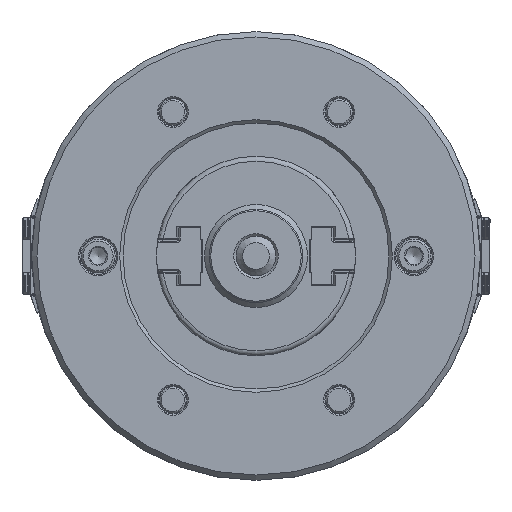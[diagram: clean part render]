
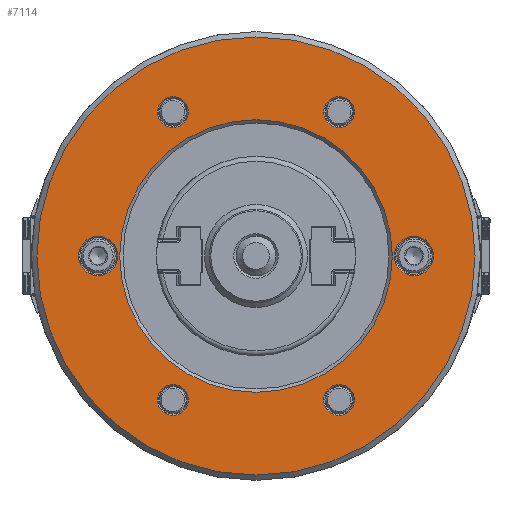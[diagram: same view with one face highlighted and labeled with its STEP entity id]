
A CAD part, left-side view. The second image highlights one B-rep face of the part: STEP entity #7114.
In plain terms, the highlighted planar face has unit normal (-1, 0, 0).
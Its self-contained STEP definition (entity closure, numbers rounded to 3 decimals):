
#624 = DIRECTION ( 'NONE',  ( -1., 0., 0. ) ) ;
#680 = FACE_BOUND ( 'NONE', #55766, .T. ) ;
#1125 = CIRCLE ( 'NONE', #48999, 4.65 ) ;
#1287 = DIRECTION ( 'NONE',  ( 1., 0., 0. ) ) ;
#1440 = ORIENTED_EDGE ( 'NONE', *, *, #67384, .F. ) ;
#1580 = VERTEX_POINT ( 'NONE', #39793 ) ;
#3205 = CIRCLE ( 'NONE', #45065, 65.9 ) ;
#3448 = DIRECTION ( 'NONE',  ( 0., 0., -1. ) ) ;
#5099 = CARTESIAN_POINT ( 'NONE',  ( -55., -47.5, 5.9 ) ) ;
#5580 = FACE_BOUND ( 'NONE', #37172, .T. ) ;
#5741 = CARTESIAN_POINT ( 'NONE',  ( -55., 0., -65.9 ) ) ;
#6458 = EDGE_CURVE ( 'NONE', #21564, #21564, #67861, .T. ) ;
#7114 = ADVANCED_FACE ( 'NONE', ( #680, #39273, #34728, #5580, #11911, #29114, #51967, #28761 ), #51621, .F. ) ;
#8036 = ORIENTED_EDGE ( 'NONE', *, *, #65424, .T. ) ;
#8078 = AXIS2_PLACEMENT_3D ( 'NONE', #12142, #1287, #28981 ) ;
#9436 = EDGE_CURVE ( 'NONE', #21191, #21191, #1125, .T. ) ;
#9480 = ORIENTED_EDGE ( 'NONE', *, *, #66124, .T. ) ;
#11911 = FACE_BOUND ( 'NONE', #67989, .T. ) ;
#12142 = CARTESIAN_POINT ( 'NONE',  ( -55., 0., 0. ) ) ;
#12471 = ORIENTED_EDGE ( 'NONE', *, *, #9436, .T. ) ;
#12800 = VERTEX_POINT ( 'NONE', #58472 ) ;
#13716 = DIRECTION ( 'NONE',  ( -1., 0., 0. ) ) ;
#15041 = DIRECTION ( 'NONE',  ( 0., 0., -1. ) ) ;
#15186 = CIRCLE ( 'NONE', #28317, 4.65 ) ;
#16609 = AXIS2_PLACEMENT_3D ( 'NONE', #41146, #68849, #58357 ) ;
#17573 = AXIS2_PLACEMENT_3D ( 'NONE', #51915, #624, #69118 ) ;
#18892 = AXIS2_PLACEMENT_3D ( 'NONE', #68445, #34362, #28031 ) ;
#19701 = EDGE_LOOP ( 'NONE', ( #12471 ) ) ;
#21191 = VERTEX_POINT ( 'NONE', #33151 ) ;
#21564 = VERTEX_POINT ( 'NONE', #5099 ) ;
#23268 = CARTESIAN_POINT ( 'NONE',  ( -55., -25., 43.301 ) ) ;
#23302 = VERTEX_POINT ( 'NONE', #46156 ) ;
#28031 = DIRECTION ( 'NONE',  ( 0., 0., -1. ) ) ;
#28317 = AXIS2_PLACEMENT_3D ( 'NONE', #43489, #59956, #15041 ) ;
#28761 = FACE_BOUND ( 'NONE', #61443, .T. ) ;
#28981 = DIRECTION ( 'NONE',  ( 0., 0., -1. ) ) ;
#29114 = FACE_BOUND ( 'NONE', #19701, .T. ) ;
#30182 = DIRECTION ( 'NONE',  ( 0., 0., 1. ) ) ;
#30416 = CARTESIAN_POINT ( 'NONE',  ( -55., -25., -43.301 ) ) ;
#32692 = VERTEX_POINT ( 'NONE', #43954 ) ;
#33151 = CARTESIAN_POINT ( 'NONE',  ( -55., -25., 38.651 ) ) ;
#33773 = DIRECTION ( 'NONE',  ( 1., 0., 0. ) ) ;
#34362 = DIRECTION ( 'NONE',  ( 1., 0., 0. ) ) ;
#34728 = FACE_BOUND ( 'NONE', #63116, .T. ) ;
#35542 = AXIS2_PLACEMENT_3D ( 'NONE', #58255, #13716, #30182 ) ;
#36830 = EDGE_CURVE ( 'NONE', #49204, #49204, #41172, .T. ) ;
#37172 = EDGE_LOOP ( 'NONE', ( #62289 ) ) ;
#39273 = FACE_BOUND ( 'NONE', #61481, .T. ) ;
#39793 = CARTESIAN_POINT ( 'NONE',  ( -55., 47.5, 5.9 ) ) ;
#40929 = ORIENTED_EDGE ( 'NONE', *, *, #48743, .T. ) ;
#41146 = CARTESIAN_POINT ( 'NONE',  ( -55., 25., 43.301 ) ) ;
#41172 = CIRCLE ( 'NONE', #69867, 4.65 ) ;
#42845 = CARTESIAN_POINT ( 'NONE',  ( -55., -25., -47.951 ) ) ;
#43489 = CARTESIAN_POINT ( 'NONE',  ( -55., 25., -43.301 ) ) ;
#43954 = CARTESIAN_POINT ( 'NONE',  ( -55., 25., 38.651 ) ) ;
#45065 = AXIS2_PLACEMENT_3D ( 'NONE', #72703, #45392, #68206 ) ;
#45140 = ORIENTED_EDGE ( 'NONE', *, *, #6458, .F. ) ;
#45392 = DIRECTION ( 'NONE',  ( 1., 0., 0. ) ) ;
#46156 = CARTESIAN_POINT ( 'NONE',  ( -55., 25., -47.951 ) ) ;
#48743 = EDGE_CURVE ( 'NONE', #32692, #32692, #48923, .T. ) ;
#48923 = CIRCLE ( 'NONE', #16609, 4.65 ) ;
#48999 = AXIS2_PLACEMENT_3D ( 'NONE', #23268, #33773, #62962 ) ;
#49204 = VERTEX_POINT ( 'NONE', #42845 ) ;
#51621 = PLANE ( 'NONE',  #18892 ) ;
#51915 = CARTESIAN_POINT ( 'NONE',  ( -55., 47.5, 0. ) ) ;
#51967 = FACE_OUTER_BOUND ( 'NONE', #53549, .T. ) ;
#53549 = EDGE_LOOP ( 'NONE', ( #1440 ) ) ;
#55766 = EDGE_LOOP ( 'NONE', ( #45140 ) ) ;
#58255 = CARTESIAN_POINT ( 'NONE',  ( -55., -47.5, 0. ) ) ;
#58357 = DIRECTION ( 'NONE',  ( 0., 0., -1. ) ) ;
#58472 = CARTESIAN_POINT ( 'NONE',  ( -55., 0., -41. ) ) ;
#59956 = DIRECTION ( 'NONE',  ( 1., 0., 0. ) ) ;
#59975 = DIRECTION ( 'NONE',  ( 1., 0., 0. ) ) ;
#61443 = EDGE_LOOP ( 'NONE', ( #9480 ) ) ;
#61481 = EDGE_LOOP ( 'NONE', ( #8036 ) ) ;
#61652 = ORIENTED_EDGE ( 'NONE', *, *, #36830, .T. ) ;
#62289 = ORIENTED_EDGE ( 'NONE', *, *, #67803, .F. ) ;
#62962 = DIRECTION ( 'NONE',  ( 0., 0., -1. ) ) ;
#63051 = CIRCLE ( 'NONE', #8078, 41. ) ;
#63116 = EDGE_LOOP ( 'NONE', ( #40929 ) ) ;
#65424 = EDGE_CURVE ( 'NONE', #23302, #23302, #15186, .T. ) ;
#66124 = EDGE_CURVE ( 'NONE', #12800, #12800, #63051, .T. ) ;
#67384 = EDGE_CURVE ( 'NONE', #68964, #68964, #3205, .T. ) ;
#67803 = EDGE_CURVE ( 'NONE', #1580, #1580, #71370, .T. ) ;
#67861 = CIRCLE ( 'NONE', #35542, 5.9 ) ;
#67989 = EDGE_LOOP ( 'NONE', ( #61652 ) ) ;
#68206 = DIRECTION ( 'NONE',  ( 0., 0., -1. ) ) ;
#68445 = CARTESIAN_POINT ( 'NONE',  ( -55., -65.9, 0. ) ) ;
#68849 = DIRECTION ( 'NONE',  ( 1., 0., 0. ) ) ;
#68964 = VERTEX_POINT ( 'NONE', #5741 ) ;
#69118 = DIRECTION ( 'NONE',  ( 0., 0., 1. ) ) ;
#69867 = AXIS2_PLACEMENT_3D ( 'NONE', #30416, #59975, #3448 ) ;
#71370 = CIRCLE ( 'NONE', #17573, 5.9 ) ;
#72703 = CARTESIAN_POINT ( 'NONE',  ( -55., 0., 0. ) ) ;
